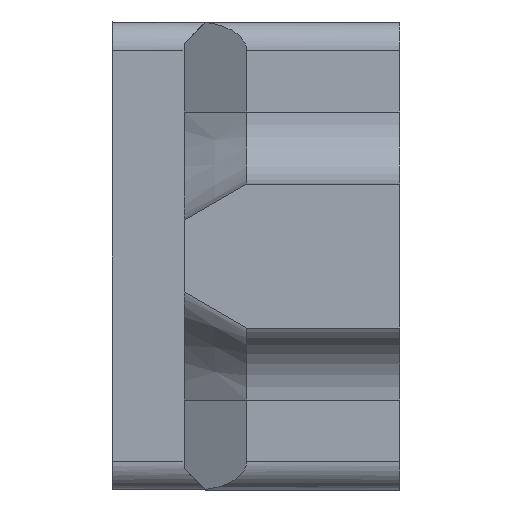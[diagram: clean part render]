
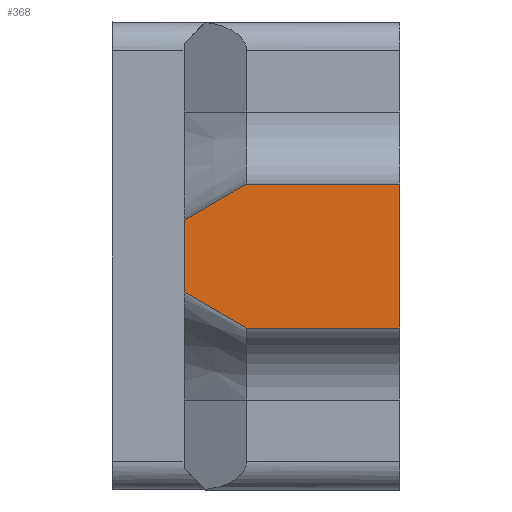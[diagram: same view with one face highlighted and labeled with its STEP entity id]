
A CAD part, left-side view. The second image highlights one B-rep face of the part: STEP entity #368.
In plain terms, the highlighted planar face has unit normal (-1, 0, 0).
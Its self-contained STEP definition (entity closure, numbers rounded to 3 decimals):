
#78 = DIRECTION ( 'NONE',  ( 0., 0., -1. ) ) ;
#123 = CARTESIAN_POINT ( 'NONE',  ( -14., -7.5, -5. ) ) ;
#320 = VECTOR ( 'NONE', #4096, 1000. ) ;
#338 = EDGE_CURVE ( 'NONE', #5597, #5255, #2097, .T. ) ;
#368 = ADVANCED_FACE ( 'NONE', ( #3229 ), #4178, .F. ) ;
#978 = VECTOR ( 'NONE', #5793, 1000. ) ;
#1193 = VECTOR ( 'NONE', #3733, 1000. ) ;
#1568 = EDGE_CURVE ( 'NONE', #5597, #2728, #6434, .T. ) ;
#1939 = EDGE_CURVE ( 'NONE', #3524, #4291, #4270, .T. ) ;
#2006 = CARTESIAN_POINT ( 'NONE',  ( -14., 7.5, -2.49 ) ) ;
#2097 = LINE ( 'NONE', #4150, #3380 ) ;
#2154 = LINE ( 'NONE', #4240, #1193 ) ;
#2156 = DIRECTION ( 'NONE',  ( 1., 0., 0. ) ) ;
#2186 = CARTESIAN_POINT ( 'NONE',  ( -14., 3.153, -5. ) ) ;
#2228 = CARTESIAN_POINT ( 'NONE',  ( -14., 7.5, 5. ) ) ;
#2327 = EDGE_LOOP ( 'NONE', ( #3645, #6193, #2625, #5659, #4197, #5396 ) ) ;
#2560 = CARTESIAN_POINT ( 'NONE',  ( -14., 3.153, 5. ) ) ;
#2572 = DIRECTION ( 'NONE',  ( 0., 0., -1. ) ) ;
#2625 = ORIENTED_EDGE ( 'NONE', *, *, #4809, .F. ) ;
#2728 = VERTEX_POINT ( 'NONE', #2006 ) ;
#2949 = AXIS2_PLACEMENT_3D ( 'NONE', #5232, #2156, #2572 ) ;
#3172 = DIRECTION ( 'NONE',  ( 0., -0.866, 0.5 ) ) ;
#3229 = FACE_OUTER_BOUND ( 'NONE', #2327, .T. ) ;
#3363 = VECTOR ( 'NONE', #78, 1000. ) ;
#3380 = VECTOR ( 'NONE', #3172, 1000. ) ;
#3418 = CARTESIAN_POINT ( 'NONE',  ( -14., -7.5, 5. ) ) ;
#3472 = CARTESIAN_POINT ( 'NONE',  ( -14., 7.5, 2.49 ) ) ;
#3524 = VERTEX_POINT ( 'NONE', #3418 ) ;
#3645 = ORIENTED_EDGE ( 'NONE', *, *, #5403, .T. ) ;
#3708 = LINE ( 'NONE', #5723, #978 ) ;
#3733 = DIRECTION ( 'NONE',  ( 0., -0.866, -0.5 ) ) ;
#4096 = DIRECTION ( 'NONE',  ( 0., -1., 0. ) ) ;
#4150 = CARTESIAN_POINT ( 'NONE',  ( -14., 7.5, 2.49 ) ) ;
#4178 = PLANE ( 'NONE',  #2949 ) ;
#4197 = ORIENTED_EDGE ( 'NONE', *, *, #1568, .T. ) ;
#4240 = CARTESIAN_POINT ( 'NONE',  ( -14., 3.153, -5. ) ) ;
#4270 = LINE ( 'NONE', #5843, #3363 ) ;
#4281 = DIRECTION ( 'NONE',  ( 0., 0., -1. ) ) ;
#4291 = VERTEX_POINT ( 'NONE', #123 ) ;
#4809 = EDGE_CURVE ( 'NONE', #5255, #3524, #5634, .T. ) ;
#5038 = VERTEX_POINT ( 'NONE', #2186 ) ;
#5043 = EDGE_CURVE ( 'NONE', #2728, #5038, #2154, .T. ) ;
#5232 = CARTESIAN_POINT ( 'NONE',  ( -14., -7.5, 5. ) ) ;
#5255 = VERTEX_POINT ( 'NONE', #2560 ) ;
#5396 = ORIENTED_EDGE ( 'NONE', *, *, #5043, .T. ) ;
#5403 = EDGE_CURVE ( 'NONE', #5038, #4291, #3708, .T. ) ;
#5597 = VERTEX_POINT ( 'NONE', #3472 ) ;
#5634 = LINE ( 'NONE', #6304, #320 ) ;
#5659 = ORIENTED_EDGE ( 'NONE', *, *, #338, .F. ) ;
#5723 = CARTESIAN_POINT ( 'NONE',  ( -14., 3.153, -5. ) ) ;
#5793 = DIRECTION ( 'NONE',  ( 0., -1., 0. ) ) ;
#5843 = CARTESIAN_POINT ( 'NONE',  ( -14., -7.5, 5. ) ) ;
#6193 = ORIENTED_EDGE ( 'NONE', *, *, #1939, .F. ) ;
#6304 = CARTESIAN_POINT ( 'NONE',  ( -14., -7.5, 5. ) ) ;
#6434 = LINE ( 'NONE', #2228, #6618 ) ;
#6618 = VECTOR ( 'NONE', #4281, 1000. ) ;
